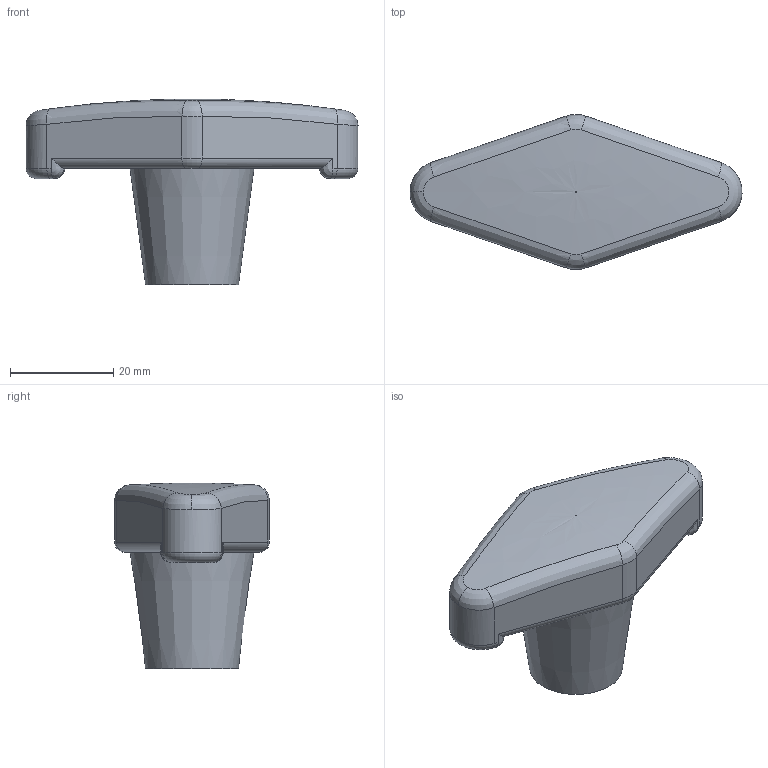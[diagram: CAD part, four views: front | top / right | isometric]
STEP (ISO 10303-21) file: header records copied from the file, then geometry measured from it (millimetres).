
FILE_DESCRIPTION( ('This file contains a STEP AP42 implementation' ,'as created by ZW3D STEP Interface translator.') ,'2;1' );
FILE_NAME( 'Rekojest eliptyczna M8 gwint wew.stp' ,'26 4 2. 85624', (''), ('ZWCAD Software Co.'), 'Version 1.0', 'ZW3D to STEP translator', '' );
FILE_SCHEMA(('AP242_MANAGED_MODEL_BASED_3D_ENGINEERING_MIM_LF { 1 0 10303 442 1 1 4 }'));
Length unit declared in the file: millimetre
Products named in the file (1): 0
Bounding box: 64.29 x 30 x 36 mm (x, y, z)
Volume: 22849.5 mm3; surface area: 7626.2 mm2
Topology: 2 solids, 2 shells, 51 faces, 111 edges, 66 vertices
Faces by surface type: bspline 16, cylinder 16, plane 12, torus 4, cone 3
Full cylindrical faces by diameter (mm): 6.8 x2, 10.5 x2
Entity records: 3197 total; most frequent: CARTESIAN_POINT 2163, ORIENTED_EDGE 220, DIRECTION 167, EDGE_CURVE 110, AXIS2_PLACEMENT_3D 66, VERTEX_POINT 66, EDGE_LOOP 54, FACE_OUTER_BOUND 51
